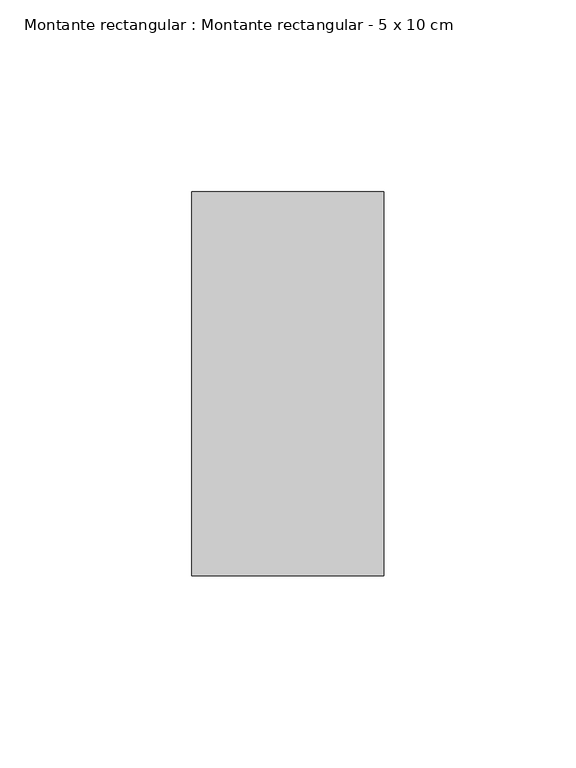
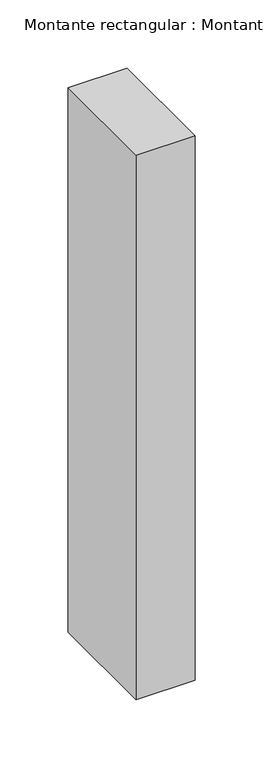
"""IFC4 building model written with IfcOpenShell, lengths in millimetres: member geometry, Montante rectangular : Montante rectangular - 5 x 10 cm."""

import ifcopenshell
import ifcopenshell.guid

model = None  # the IFC model being written
_history = None  # IfcOwnerHistory: only IFC2X3 demands one
_inside = {}  # id of a spatial element -> (the spatial element, [elements in it])
_under = {}  # id of a project, library or spatial element -> (it, [spatial elements below it])
_declared = {}  # id of a project -> (the project, [libraries it declares])
_typed = {}  # id of a type object -> (the type object, [elements of that type])
_made_of = {}  # id of a material, layer set ... -> (it, [elements and type objects made of it])


def new_model(schema):
    """Start an empty IFC model of exactly this schema.

    Asked for "IFC4X3", IfcOpenShell would pick the latest addendum, in which some entities
    have other attributes; the version numbers below select the first issue.
    IFC2X3 requires an IfcOwnerHistory on every rooted entity: one is made here for all.
    """
    global model, _history
    if schema == "IFC4X3":
        model = ifcopenshell.file(schema_version=(4, 3, 0, 0))
    else:
        model = ifcopenshell.file(schema=schema)
    _inside.clear()
    _under.clear()
    _declared.clear()
    _typed.clear()
    _made_of.clear()
    _history = None
    if model.schema == "IFC2X3":
        org = make("IfcOrganization", Name="unknown")
        user = make(
            "IfcPersonAndOrganization",
            ThePerson=make("IfcPerson", FamilyName="unknown"),
            TheOrganization=org,
        )
        app = make(
            "IfcApplication",
            ApplicationDeveloper=org,
            Version="unknown",
            ApplicationFullName="unknown",
            ApplicationIdentifier="unknown",
        )
        _history = make(
            "IfcOwnerHistory",
            OwningUser=user,
            OwningApplication=app,
            ChangeAction="ADDED",
            CreationDate=0,
        )
    return model


def make(cls, **values):
    """One entity of the class cls with the attributes given. An attribute that is None is left unset."""
    return model.create_entity(
        cls, **{name: value for name, value in values.items() if value is not None}
    )


def rooted(cls, **values):
    """An entity with a GlobalId (a new one), such as an element, a storey or a relation."""
    return make(cls, GlobalId=ifcopenshell.guid.new(), OwnerHistory=_history, **values)


def si_unit(unit_type, name, prefix=None):
    """IfcSIUnit, for example si_unit("LENGTHUNIT", "METRE", prefix="MILLI")."""
    return make("IfcSIUnit", UnitType=unit_type, Prefix=prefix, Name=name)


def assignment(units):
    """IfcUnitAssignment: the units of a project."""
    return None if units is None else make("IfcUnitAssignment", Units=units)


def point(xyz):
    """IfcCartesianPoint."""
    return None if xyz is None else make("IfcCartesianPoint", Coordinates=xyz)


def direction(xyz):
    """IfcDirection."""
    return None if xyz is None else make("IfcDirection", DirectionRatios=xyz)


def frame(location, z_axis=None, x_axis=None):
    """IfcAxis2Placement3D, a coordinate frame: its origin and axes. An axis left out is left unset."""
    return make(
        "IfcAxis2Placement3D",
        Location=point(location),
        Axis=direction(z_axis),
        RefDirection=direction(x_axis),
    )


def origin():
    """The frame at (0, 0, 0) with its axes left unset."""
    return frame((0.0, 0.0, 0.0))


def place(relative_to, where):
    """IfcLocalPlacement: puts the frame where relative to a parent placement (None: the world)."""
    return make(
        "IfcLocalPlacement", PlacementRelTo=relative_to, RelativePlacement=where
    )


def context(
    kind, dimensions, precision=None, world=None, true_north=None, identifier=None
):
    """IfcGeometricRepresentationContext, for example the 3D "Model" context."""
    return make(
        "IfcGeometricRepresentationContext",
        ContextIdentifier=identifier,
        ContextType=kind,
        CoordinateSpaceDimension=dimensions,
        Precision=precision,
        WorldCoordinateSystem=world,
        TrueNorth=true_north,
    )


def project(units=None, contexts=None):
    """IfcProject with its units and contexts."""
    return rooted(
        "IfcProject",
        Name="project",
        RepresentationContexts=contexts,
        UnitsInContext=assignment(units),
    )


def spatial(cls, under=None, at=None, **own):
    """A site, building, storey or space (cls), placed at a placement, below another one or the project."""
    s = rooted(cls, ObjectPlacement=at, **own)
    if under is not None:
        _under.setdefault(under.id(), (under, []))[1].append(s)
    return s


def polyline(points):
    """IfcPolyline through the points."""
    return make("IfcPolyline", Points=[point(p) for p in points])


def outline(outer, holes=None, kind="AREA"):
    """IfcArbitraryClosedProfileDef: a profile drawn as a closed curve; with holes, ...WithVoids."""
    if holes is None:
        return make("IfcArbitraryClosedProfileDef", ProfileType=kind, OuterCurve=outer)
    return make(
        "IfcArbitraryProfileDefWithVoids",
        ProfileType=kind,
        OuterCurve=outer,
        InnerCurves=holes,
    )


def extrude(swept, where, along, depth):
    """IfcExtrudedAreaSolid: the profile swept, set in the frame where, extruded along a direction by depth."""
    return make(
        "IfcExtrudedAreaSolid",
        SweptArea=swept,
        Position=where,
        ExtrudedDirection=direction(along),
        Depth=depth,
    )


def shape(context_of_items, identifier, shape_type, items):
    """IfcShapeRepresentation: the items that make up one representation, for example the "Body"."""
    return make(
        "IfcShapeRepresentation",
        ContextOfItems=context_of_items,
        RepresentationIdentifier=identifier,
        RepresentationType=shape_type,
        Items=items,
    )


def source(mapping_origin, context_of_items, identifier, shape_type, items):
    """IfcRepresentationMap: a shape defined once, which mapped items show again and again."""
    return make(
        "IfcRepresentationMap",
        MappingOrigin=mapping_origin,
        MappedRepresentation=shape(context_of_items, identifier, shape_type, items),
    )


def transform(
    local_origin,
    x_axis=None,
    y_axis=None,
    z_axis=None,
    scale=None,
    scale2=None,
    scale3=None,
    uniform=True,
):
    """IfcCartesianTransformationOperator3D, or its non-uniform kind. x_axis, y_axis, z_axis: its Axis1, 2, 3."""
    if uniform:
        return make(
            "IfcCartesianTransformationOperator3D",
            Axis1=direction(x_axis),
            Axis2=direction(y_axis),
            LocalOrigin=point(local_origin),
            Scale=scale,
            Axis3=direction(z_axis),
        )
    return make(
        "IfcCartesianTransformationOperator3DnonUniform",
        Axis1=direction(x_axis),
        Axis2=direction(y_axis),
        LocalOrigin=point(local_origin),
        Scale=scale,
        Axis3=direction(z_axis),
        Scale2=scale2,
        Scale3=scale3,
    )


def mapped(mapping_source, mapping_target):
    """IfcMappedItem: shows the shape of a source again, moved by a transform."""
    return make(
        "IfcMappedItem", MappingSource=mapping_source, MappingTarget=mapping_target
    )


def made_of(thing, what):
    """Note that an element or type object is made of a material, layer set ...; save() writes the relation."""
    if what is not None:
        _made_of.setdefault(what.id(), (what, []))[1].append(thing)
    return thing


def element(
    cls,
    number,
    at=None,
    inside=None,
    cuts=None,
    type_object=None,
    material=None,
    context=None,
    identifier="Body",
    shape_type=None,
    held_by="IfcProductDefinitionShape",
    body=None,
    shapes=None,
    **own,
):
    """One element of the class cls, such as IfcWall. Its Tag is "e" and its number.

    at: its placement. inside: the storey or other place that contains it. cuts: it is an
    opening in that element (IfcRelVoidsElement). A single representation is given by context,
    identifier, shape_type and body (its items); several are given by shapes. held_by: the class
    of the entity that holds the representations. save() writes the other relations.
    """
    e = rooted(cls, Tag="e%d" % number, ObjectPlacement=at, **own)
    if body is not None:
        shapes = [shape(context, identifier, shape_type, body)]
    if shapes is not None:
        e.Representation = make(held_by, Representations=shapes)
    if inside is not None:
        _inside.setdefault(inside.id(), (inside, []))[1].append(e)
    if cuts is not None:
        rooted(
            "IfcRelVoidsElement", RelatingBuildingElement=cuts, RelatedOpeningElement=e
        )
    if type_object is not None:
        _typed.setdefault(type_object.id(), (type_object, []))[1].append(e)
    return made_of(e, material)


def aggregate(whole, parts):
    """IfcRelAggregates: a whole, such as a stair, and the parts it consists of."""
    return rooted("IfcRelAggregates", RelatingObject=whole, RelatedObjects=parts)


def save(model, path):
    """Write the relations noted so far, then the file.

    IfcRelAggregates (storeys below a building ...), IfcRelContainedInSpatialStructure (elements
    in a storey), IfcRelDefinesByType, IfcRelAssociatesMaterial and IfcRelDeclares: one each for
    every whole, place, type object, material and project.
    """
    for whole, parts in _under.values():
        aggregate(whole, parts)
    for where, things in _inside.values():
        rooted(
            "IfcRelContainedInSpatialStructure",
            RelatedElements=things,
            RelatingStructure=where,
        )
    for kind, things in _typed.values():
        rooted("IfcRelDefinesByType", RelatedObjects=things, RelatingType=kind)
    for what, things in _made_of.values():
        rooted("IfcRelAssociatesMaterial", RelatedObjects=things, RelatingMaterial=what)
    for by, libraries in _declared.values():
        rooted("IfcRelDeclares", RelatingContext=by, RelatedDefinitions=libraries)
    model.write(path)


def montante_rectangular_montante_rectangular_5_x_10_cm_23ce018d(model_context):
    return source(origin(), model_context, "Body", "SweptSolid", [
        extrude(outline(polyline([(0.0, 50.0), (0.0, -50.0), (-50.0, -50.0), (-50.0, 50.0), (0.0, 50.0)])), frame((0.0, 0.0, -488.2604383), z_axis=(0.0, 0.0, 1.0), x_axis=(1.0, 0.0, 0.0)), (0.0, 0.0, 1.0), 488.2604383),
    ])


if __name__ == "__main__":
    model = new_model("IFC4")
    model_context = context("Model", 3, world=origin())
    ifc_project = project(units=[si_unit("LENGTHUNIT", "METRE", prefix="MILLI")], contexts=[model_context])
    site = spatial("IfcSite", under=ifc_project)
    building = spatial("IfcBuilding", under=site)
    placement = place(None, origin())
    montante_rectangular_montante_rectangular_5_x_10_cm_shape = montante_rectangular_montante_rectangular_5_x_10_cm_23ce018d(model_context)
    element("IfcMember", 1, ObjectType="Montante rectangular : Montante rectangular - 5 x 10 cm", at=placement, inside=building, context=model_context, shape_type="MappedRepresentation", body=[
        mapped(montante_rectangular_montante_rectangular_5_x_10_cm_shape, transform((0.0, 0.0, 0.0), x_axis=(1.0, 0.0, 0.0), y_axis=(0.0, 1.0, 0.0), z_axis=(0.0, 0.0, 1.0))),
    ])
    save(model, "model.ifc")
